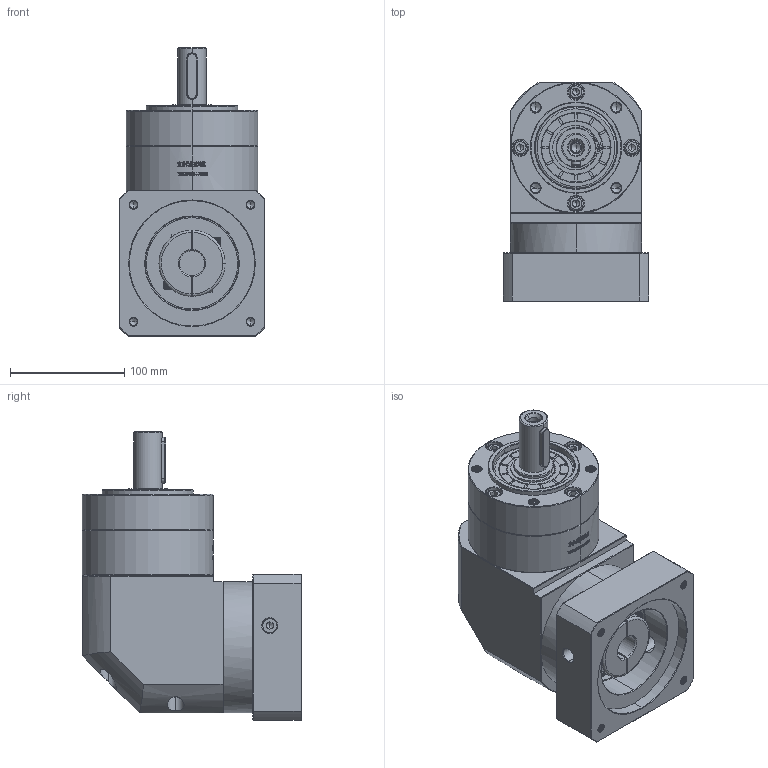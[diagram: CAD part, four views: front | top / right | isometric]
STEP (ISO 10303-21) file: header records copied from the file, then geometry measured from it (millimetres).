
FILE_DESCRIPTION (( 'STEP AP214' ), '1' );
FILE_NAME ('ZER120A-D25-L1-22-110-145-M8.step', '2023-03-14T08:14:39', ( '' ), ( '' ), 'SwSTEP 2.0', 'SolidWorks 2016', '' );
FILE_SCHEMA (( 'AUTOMOTIVE_DESIGN' ));
Length unit declared in the file: millimetre
Products named in the file (1): ZER120A-D25-L1-22-110-145-M8
Bounding box: 128 x 192.4 x 253 mm (x, y, z)
Volume: 2917574.7 mm3; surface area: 246447.1 mm2
Topology: 6 solids, 6 shells, 2955 faces, 7926 edges, 5115 vertices
Faces by surface type: plane 1463, bspline 619, cylinder 532, cone 333, torus 8
Entity records: 169297 total; most frequent: CARTESIAN_POINT 69544, ORIENTED_EDGE 15776, DIRECTION 11250, EDGE_CURVE 7888, VERTEX_POINT 5115, LINE 4802, VECTOR 4802, AXIS2_PLACEMENT_3D 3224
